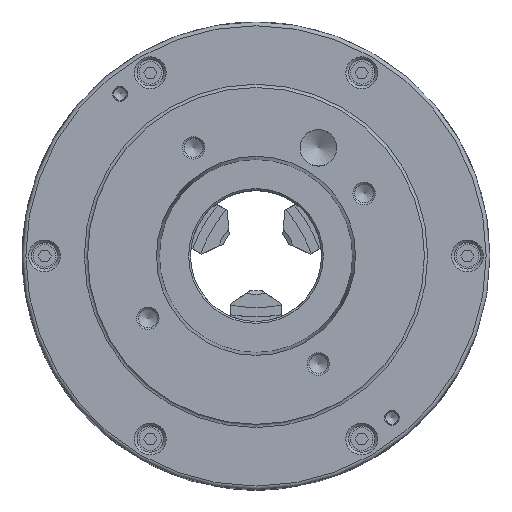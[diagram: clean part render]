
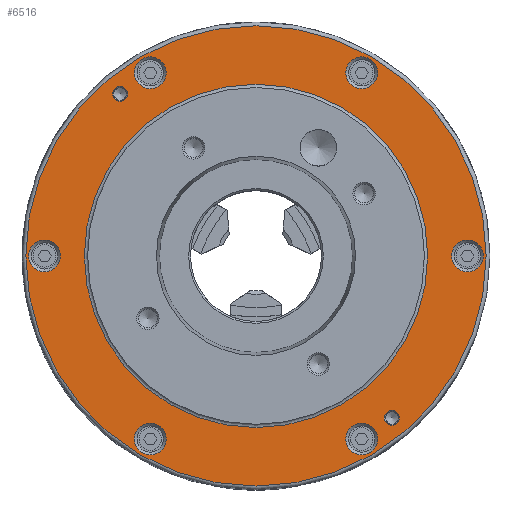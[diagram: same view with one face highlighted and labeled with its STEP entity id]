
A CAD part, top view. The second image highlights one B-rep face of the part: STEP entity #6516.
In plain terms, the highlighted planar face has unit normal (0, 0, 1).
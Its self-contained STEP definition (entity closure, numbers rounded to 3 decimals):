
#279=FACE_BOUND('',#963,.T.);
#280=FACE_BOUND('',#964,.T.);
#281=FACE_BOUND('',#965,.T.);
#282=FACE_BOUND('',#966,.T.);
#283=FACE_BOUND('',#967,.T.);
#284=FACE_BOUND('',#968,.T.);
#285=FACE_BOUND('',#969,.T.);
#286=FACE_BOUND('',#970,.T.);
#287=FACE_BOUND('',#971,.T.);
#336=PLANE('',#6993);
#563=FACE_OUTER_BOUND('',#962,.T.);
#962=EDGE_LOOP('',(#4517));
#963=EDGE_LOOP('',(#4518));
#964=EDGE_LOOP('',(#4519));
#965=EDGE_LOOP('',(#4520));
#966=EDGE_LOOP('',(#4521));
#967=EDGE_LOOP('',(#4522));
#968=EDGE_LOOP('',(#4523));
#969=EDGE_LOOP('',(#4524));
#970=EDGE_LOOP('',(#4525));
#971=EDGE_LOOP('',(#4526));
#2539=CIRCLE('',#6990,91.732);
#2542=CIRCLE('',#6994,123.);
#2543=CIRCLE('',#6995,4.);
#2544=CIRCLE('',#6996,4.);
#2545=CIRCLE('',#6997,8.5);
#2546=CIRCLE('',#6998,8.5);
#2547=CIRCLE('',#6999,8.5);
#2548=CIRCLE('',#7000,8.5);
#2549=CIRCLE('',#7001,8.5);
#2550=CIRCLE('',#7002,8.5);
#2837=VERTEX_POINT('',#9764);
#2839=VERTEX_POINT('',#9770);
#2840=VERTEX_POINT('',#9772);
#2841=VERTEX_POINT('',#9774);
#2842=VERTEX_POINT('',#9776);
#2843=VERTEX_POINT('',#9778);
#2844=VERTEX_POINT('',#9780);
#2845=VERTEX_POINT('',#9782);
#2846=VERTEX_POINT('',#9784);
#2847=VERTEX_POINT('',#9786);
#3504=EDGE_CURVE('',#2837,#2837,#2539,.T.);
#3507=EDGE_CURVE('',#2839,#2839,#2542,.T.);
#3508=EDGE_CURVE('',#2840,#2840,#2543,.T.);
#3509=EDGE_CURVE('',#2841,#2841,#2544,.T.);
#3510=EDGE_CURVE('',#2842,#2842,#2545,.T.);
#3511=EDGE_CURVE('',#2843,#2843,#2546,.T.);
#3512=EDGE_CURVE('',#2844,#2844,#2547,.T.);
#3513=EDGE_CURVE('',#2845,#2845,#2548,.T.);
#3514=EDGE_CURVE('',#2846,#2846,#2549,.T.);
#3515=EDGE_CURVE('',#2847,#2847,#2550,.T.);
#4517=ORIENTED_EDGE('',*,*,#3507,.F.);
#4518=ORIENTED_EDGE('',*,*,#3508,.T.);
#4519=ORIENTED_EDGE('',*,*,#3509,.T.);
#4520=ORIENTED_EDGE('',*,*,#3510,.F.);
#4521=ORIENTED_EDGE('',*,*,#3511,.F.);
#4522=ORIENTED_EDGE('',*,*,#3512,.F.);
#4523=ORIENTED_EDGE('',*,*,#3513,.F.);
#4524=ORIENTED_EDGE('',*,*,#3514,.F.);
#4525=ORIENTED_EDGE('',*,*,#3515,.F.);
#4526=ORIENTED_EDGE('',*,*,#3504,.F.);
#6516=ADVANCED_FACE('',(#563,#279,#280,#281,#282,#283,#284,#285,#286,#287),
#336,.T.);
#6990=AXIS2_PLACEMENT_3D('',#9765,#7741,#7742);
#6993=AXIS2_PLACEMENT_3D('',#9769,#7747,#7748);
#6994=AXIS2_PLACEMENT_3D('',#9771,#7749,#7750);
#6995=AXIS2_PLACEMENT_3D('',#9773,#7751,#7752);
#6996=AXIS2_PLACEMENT_3D('',#9775,#7753,#7754);
#6997=AXIS2_PLACEMENT_3D('',#9777,#7755,#7756);
#6998=AXIS2_PLACEMENT_3D('',#9779,#7757,#7758);
#6999=AXIS2_PLACEMENT_3D('',#9781,#7759,#7760);
#7000=AXIS2_PLACEMENT_3D('',#9783,#7761,#7762);
#7001=AXIS2_PLACEMENT_3D('',#9785,#7763,#7764);
#7002=AXIS2_PLACEMENT_3D('',#9787,#7765,#7766);
#7741=DIRECTION('center_axis',(0.,0.,1.));
#7742=DIRECTION('ref_axis',(-1.,0.,0.));
#7747=DIRECTION('center_axis',(0.,0.,1.));
#7748=DIRECTION('ref_axis',(1.,0.,0.));
#7749=DIRECTION('center_axis',(0.,0.,-1.));
#7750=DIRECTION('ref_axis',(1.,0.,0.));
#7751=DIRECTION('center_axis',(0.,0.,-1.));
#7752=DIRECTION('ref_axis',(-1.,0.,0.));
#7753=DIRECTION('center_axis',(0.,0.,-1.));
#7754=DIRECTION('ref_axis',(1.,0.,0.));
#7755=DIRECTION('center_axis',(0.,0.,1.));
#7756=DIRECTION('ref_axis',(-0.5,0.866,0.));
#7757=DIRECTION('center_axis',(0.,0.,1.));
#7758=DIRECTION('ref_axis',(-0.5,-0.866,0.));
#7759=DIRECTION('center_axis',(0.,0.,1.));
#7760=DIRECTION('ref_axis',(1.,0.,0.));
#7761=DIRECTION('center_axis',(0.,0.,1.));
#7762=DIRECTION('ref_axis',(0.5,-0.866,0.));
#7763=DIRECTION('center_axis',(0.,0.,1.));
#7764=DIRECTION('ref_axis',(-1.,0.,0.));
#7765=DIRECTION('center_axis',(0.,0.,1.));
#7766=DIRECTION('ref_axis',(0.5,0.866,0.));
#9764=CARTESIAN_POINT('',(91.732,0.,48.));
#9765=CARTESIAN_POINT('Origin',(0.,0.,48.));
#9769=CARTESIAN_POINT('Origin',(-125.,0.,48.));
#9770=CARTESIAN_POINT('',(123.,0.,48.));
#9771=CARTESIAN_POINT('Origin',(0.,0.,48.));
#9772=CARTESIAN_POINT('',(-68.635,86.563,48.));
#9773=CARTESIAN_POINT('Origin',(-72.635,86.563,48.));
#9774=CARTESIAN_POINT('',(68.635,-86.563,48.));
#9775=CARTESIAN_POINT('Origin',(72.635,-86.563,48.));
#9776=CARTESIAN_POINT('',(60.75,90.5,48.));
#9777=CARTESIAN_POINT('Origin',(56.5,97.861,48.));
#9778=CARTESIAN_POINT('',(-108.75,7.361,48.));
#9779=CARTESIAN_POINT('Origin',(-113.,0.,48.));
#9780=CARTESIAN_POINT('',(48.,-97.861,48.));
#9781=CARTESIAN_POINT('Origin',(56.5,-97.861,48.));
#9782=CARTESIAN_POINT('',(-60.75,-90.5,48.));
#9783=CARTESIAN_POINT('Origin',(-56.5,-97.861,48.));
#9784=CARTESIAN_POINT('',(-48.,97.861,48.));
#9785=CARTESIAN_POINT('Origin',(-56.5,97.861,48.));
#9786=CARTESIAN_POINT('',(108.75,-7.361,48.));
#9787=CARTESIAN_POINT('Origin',(113.,0.,48.));
